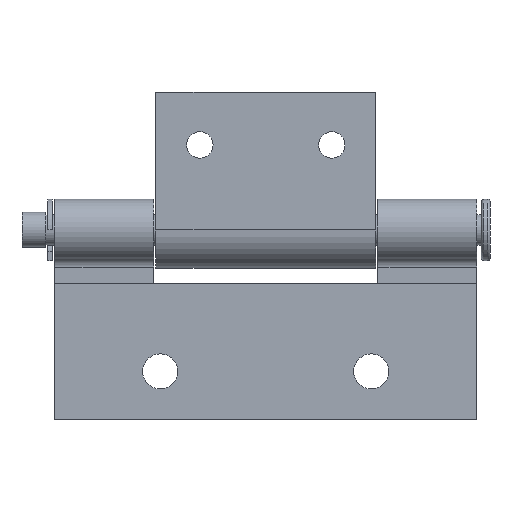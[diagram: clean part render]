
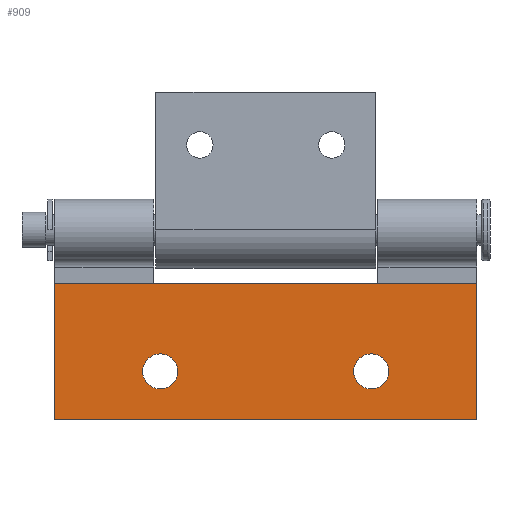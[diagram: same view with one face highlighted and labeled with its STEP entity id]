
A CAD part, front view. The second image highlights one B-rep face of the part: STEP entity #909.
In plain terms, the highlighted planar face has unit normal (0, -1, 0).
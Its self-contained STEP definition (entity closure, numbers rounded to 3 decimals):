
#1 = VERTEX_POINT ( 'NONE', #2089 ) ;
#9 = CARTESIAN_POINT ( 'NONE',  ( 24., -6., -6.09 ) ) ;
#32 = FACE_BOUND ( 'NONE', #2119, .T. ) ;
#135 = DIRECTION ( 'NONE',  ( 0., 1., 0. ) ) ;
#143 = VECTOR ( 'NONE', #176, 1000. ) ;
#145 = VERTEX_POINT ( 'NONE', #2168 ) ;
#176 = DIRECTION ( 'NONE',  ( 0., 0., -1. ) ) ;
#182 = DIRECTION ( 'NONE',  ( 0., 0., 1. ) ) ;
#231 = EDGE_CURVE ( 'NONE', #671, #1114, #1411, .T. ) ;
#247 = DIRECTION ( 'NONE',  ( -1., 0., 0. ) ) ;
#289 = VERTEX_POINT ( 'NONE', #784 ) ;
#342 = VERTEX_POINT ( 'NONE', #868 ) ;
#346 = ORIENTED_EDGE ( 'NONE', *, *, #1287, .T. ) ;
#361 = CARTESIAN_POINT ( 'NONE',  ( -24., -6., -6.09 ) ) ;
#409 = ORIENTED_EDGE ( 'NONE', *, *, #2137, .T. ) ;
#418 = CIRCLE ( 'NONE', #2218, 2. ) ;
#437 = ORIENTED_EDGE ( 'NONE', *, *, #231, .F. ) ;
#485 = EDGE_LOOP ( 'NONE', ( #409, #1267, #437, #1916 ) ) ;
#516 = VECTOR ( 'NONE', #1144, 1000. ) ;
#572 = DIRECTION ( 'NONE',  ( 0., 1., 0. ) ) ;
#579 = LINE ( 'NONE', #938, #624 ) ;
#581 = CARTESIAN_POINT ( 'NONE',  ( 24., -6., -6.09 ) ) ;
#624 = VECTOR ( 'NONE', #2293, 1000. ) ;
#671 = VERTEX_POINT ( 'NONE', #1026 ) ;
#766 = PLANE ( 'NONE',  #2095 ) ;
#784 = CARTESIAN_POINT ( 'NONE',  ( 12., -6., -14.09 ) ) ;
#798 = DIRECTION ( 'NONE',  ( 0., 0., 1. ) ) ;
#868 = CARTESIAN_POINT ( 'NONE',  ( -12., -6., -14.09 ) ) ;
#909 = ADVANCED_FACE ( 'NONE', ( #1333, #32, #1194 ), #766, .F. ) ;
#938 = CARTESIAN_POINT ( 'NONE',  ( 24., -6., -21.59 ) ) ;
#972 = EDGE_LOOP ( 'NONE', ( #1331, #1781 ) ) ;
#1026 = CARTESIAN_POINT ( 'NONE',  ( 24., -6., -6.09 ) ) ;
#1064 = CARTESIAN_POINT ( 'NONE',  ( -24., -6., -21.59 ) ) ;
#1068 = CIRCLE ( 'NONE', #1646, 2. ) ;
#1077 = EDGE_CURVE ( 'NONE', #342, #1, #418, .T. ) ;
#1106 = AXIS2_PLACEMENT_3D ( 'NONE', #1118, #2205, #1658 ) ;
#1114 = VERTEX_POINT ( 'NONE', #2256 ) ;
#1118 = CARTESIAN_POINT ( 'NONE',  ( 12., -6., -16.09 ) ) ;
#1144 = DIRECTION ( 'NONE',  ( 0., 0., -1. ) ) ;
#1194 = FACE_OUTER_BOUND ( 'NONE', #485, .T. ) ;
#1215 = CIRCLE ( 'NONE', #1106, 2. ) ;
#1249 = EDGE_CURVE ( 'NONE', #671, #1351, #1932, .T. ) ;
#1255 = CIRCLE ( 'NONE', #2301, 2. ) ;
#1267 = ORIENTED_EDGE ( 'NONE', *, *, #1428, .F. ) ;
#1270 = CARTESIAN_POINT ( 'NONE',  ( 12., -6., -16.09 ) ) ;
#1286 = EDGE_CURVE ( 'NONE', #289, #145, #1255, .T. ) ;
#1287 = EDGE_CURVE ( 'NONE', #145, #289, #1215, .T. ) ;
#1331 = ORIENTED_EDGE ( 'NONE', *, *, #1077, .T. ) ;
#1333 = FACE_BOUND ( 'NONE', #972, .T. ) ;
#1351 = VERTEX_POINT ( 'NONE', #361 ) ;
#1411 = LINE ( 'NONE', #9, #143 ) ;
#1428 = EDGE_CURVE ( 'NONE', #1114, #2347, #579, .T. ) ;
#1545 = CARTESIAN_POINT ( 'NONE',  ( -12., -6., -16.09 ) ) ;
#1628 = DIRECTION ( 'NONE',  ( 0., 1., 0. ) ) ;
#1646 = AXIS2_PLACEMENT_3D ( 'NONE', #1693, #135, #1677 ) ;
#1658 = DIRECTION ( 'NONE',  ( 0., 0., 1. ) ) ;
#1677 = DIRECTION ( 'NONE',  ( 0., 0., 1. ) ) ;
#1691 = LINE ( 'NONE', #2244, #516 ) ;
#1693 = CARTESIAN_POINT ( 'NONE',  ( -12., -6., -16.09 ) ) ;
#1714 = ORIENTED_EDGE ( 'NONE', *, *, #1286, .T. ) ;
#1736 = EDGE_CURVE ( 'NONE', #1, #342, #1068, .T. ) ;
#1747 = CARTESIAN_POINT ( 'NONE',  ( 24., -6., -6.09 ) ) ;
#1781 = ORIENTED_EDGE ( 'NONE', *, *, #1736, .T. ) ;
#1825 = DIRECTION ( 'NONE',  ( 0., 0., 1. ) ) ;
#1916 = ORIENTED_EDGE ( 'NONE', *, *, #1249, .T. ) ;
#1932 = LINE ( 'NONE', #1747, #2345 ) ;
#2068 = DIRECTION ( 'NONE',  ( 0., 1., 0. ) ) ;
#2089 = CARTESIAN_POINT ( 'NONE',  ( -12., -6., -18.09 ) ) ;
#2095 = AXIS2_PLACEMENT_3D ( 'NONE', #581, #2068, #798 ) ;
#2119 = EDGE_LOOP ( 'NONE', ( #1714, #346 ) ) ;
#2137 = EDGE_CURVE ( 'NONE', #1351, #2347, #1691, .T. ) ;
#2168 = CARTESIAN_POINT ( 'NONE',  ( 12., -6., -18.09 ) ) ;
#2205 = DIRECTION ( 'NONE',  ( 0., 1., 0. ) ) ;
#2218 = AXIS2_PLACEMENT_3D ( 'NONE', #1545, #572, #182 ) ;
#2244 = CARTESIAN_POINT ( 'NONE',  ( -24., -6., -6.09 ) ) ;
#2256 = CARTESIAN_POINT ( 'NONE',  ( 24., -6., -21.59 ) ) ;
#2293 = DIRECTION ( 'NONE',  ( -1., 0., 0. ) ) ;
#2301 = AXIS2_PLACEMENT_3D ( 'NONE', #1270, #1628, #1825 ) ;
#2345 = VECTOR ( 'NONE', #247, 1000. ) ;
#2347 = VERTEX_POINT ( 'NONE', #1064 ) ;
